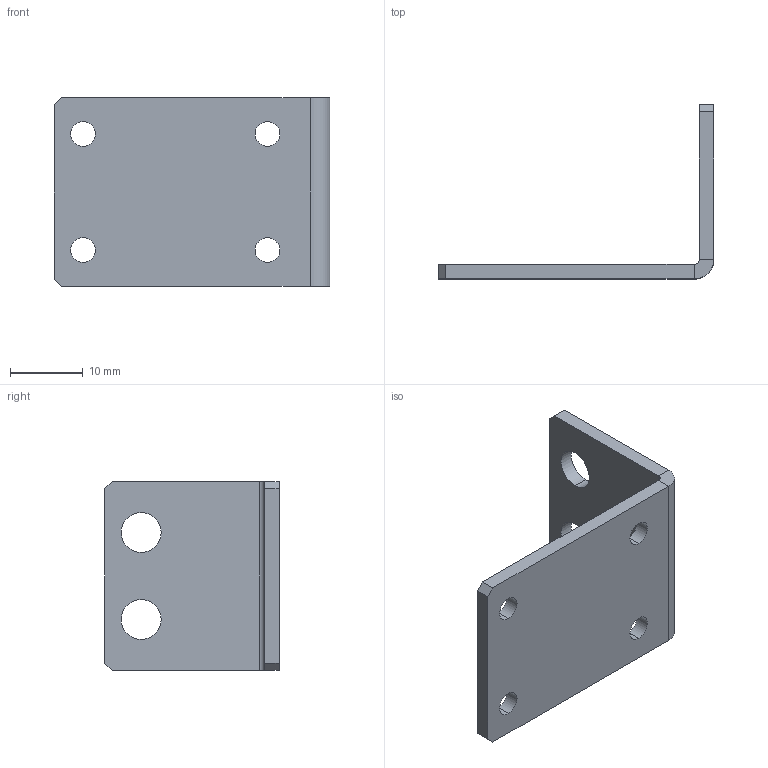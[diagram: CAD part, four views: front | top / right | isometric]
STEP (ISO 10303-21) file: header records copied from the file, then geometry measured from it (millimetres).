
FILE_DESCRIPTION (( 'STEP AP214' ), '1' );
FILE_NAME ('センサー取付金具2.STEP', '2025-10-18T09:09:31', ( '' ), ( '' ), 'SwSTEP 2.0', 'SolidWorks 2023', '' );
FILE_SCHEMA (( 'AUTOMOTIVE_DESIGN' ));
Length unit declared in the file: millimetre
Products named in the file (1): センサー取付金具2
Bounding box: 38 x 24 x 26 mm (x, y, z)
Volume: 2909.6 mm3; surface area: 3400.5 mm2
Topology: 1 solids, 1 shells, 30 faces, 76 edges, 48 vertices
Faces by surface type: plane 16, cylinder 14
Entity records: 951 total; most frequent: DIRECTION 166, CARTESIAN_POINT 155, ORIENTED_EDGE 152, EDGE_CURVE 76, AXIS2_PLACEMENT_3D 59, LINE 48, VERTEX_POINT 48, VECTOR 48
